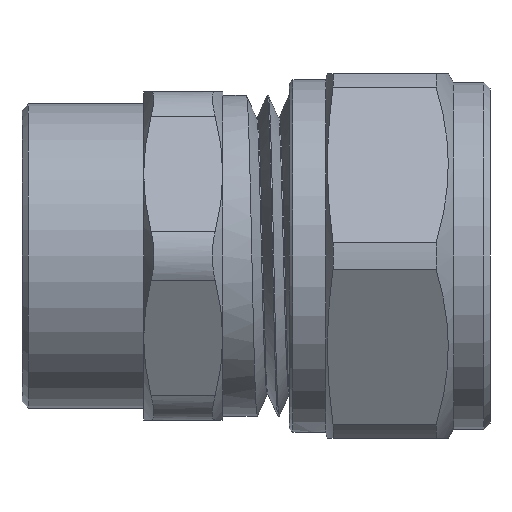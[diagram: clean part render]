
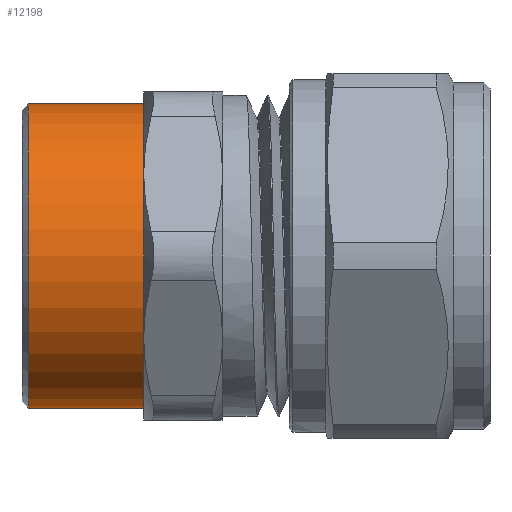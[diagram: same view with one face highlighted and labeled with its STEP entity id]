
A CAD part, front view. The second image highlights one B-rep face of the part: STEP entity #12198.
In plain terms, the highlighted cylindrical face has radius 12.5 mm (diameter 25 mm), a full revolution.
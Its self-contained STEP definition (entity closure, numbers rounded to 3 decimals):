
#1506=CYLINDRICAL_SURFACE('',#12834,12.5);
#2160=FACE_OUTER_BOUND('',#2878,.T.);
#2878=EDGE_LOOP('',(#11419,#11420,#11421,#11422,#11423,#11424));
#3632=LINE('',#29419,#4377);
#4377=VECTOR('',#14800,12.5);
#4681=CIRCLE('',#12832,12.5);
#4682=CIRCLE('',#12833,12.5);
#4683=CIRCLE('',#12835,12.5);
#4684=CIRCLE('',#12836,12.5);
#5935=VERTEX_POINT('',#29412);
#5936=VERTEX_POINT('',#29414);
#5937=VERTEX_POINT('',#29418);
#5938=VERTEX_POINT('',#29420);
#7783=EDGE_CURVE('',#5935,#5936,#4681,.T.);
#7784=EDGE_CURVE('',#5936,#5935,#4682,.T.);
#7785=EDGE_CURVE('',#5935,#5937,#3632,.T.);
#7786=EDGE_CURVE('',#5937,#5938,#4683,.T.);
#7787=EDGE_CURVE('',#5938,#5937,#4684,.T.);
#11419=ORIENTED_EDGE('',*,*,#7784,.F.);
#11420=ORIENTED_EDGE('',*,*,#7783,.F.);
#11421=ORIENTED_EDGE('',*,*,#7785,.T.);
#11422=ORIENTED_EDGE('',*,*,#7786,.T.);
#11423=ORIENTED_EDGE('',*,*,#7787,.T.);
#11424=ORIENTED_EDGE('',*,*,#7785,.F.);
#12198=ADVANCED_FACE('',(#2160),#1506,.T.);
#12832=AXIS2_PLACEMENT_3D('',#29415,#14794,#14795);
#12833=AXIS2_PLACEMENT_3D('',#29416,#14796,#14797);
#12834=AXIS2_PLACEMENT_3D('',#29417,#14798,#14799);
#12835=AXIS2_PLACEMENT_3D('',#29421,#14801,#14802);
#12836=AXIS2_PLACEMENT_3D('',#29422,#14803,#14804);
#14794=DIRECTION('center_axis',(-1.,0.,0.));
#14795=DIRECTION('ref_axis',(0.,0.,1.));
#14796=DIRECTION('center_axis',(-1.,0.,0.));
#14797=DIRECTION('ref_axis',(0.,0.,1.));
#14798=DIRECTION('center_axis',(-1.,0.,0.));
#14799=DIRECTION('ref_axis',(0.,-1.,0.));
#14800=DIRECTION('',(1.,0.,0.));
#14801=DIRECTION('center_axis',(-1.,0.,0.));
#14802=DIRECTION('ref_axis',(0.,0.,1.));
#14803=DIRECTION('center_axis',(-1.,0.,0.));
#14804=DIRECTION('ref_axis',(0.,0.,1.));
#29412=CARTESIAN_POINT('',(-18.25,12.5,0.));
#29414=CARTESIAN_POINT('',(-18.25,-12.5,0.));
#29415=CARTESIAN_POINT('Origin',(-18.25,0.,0.));
#29416=CARTESIAN_POINT('Origin',(-18.25,0.,0.));
#29417=CARTESIAN_POINT('Origin',(-13.5,0.,0.));
#29418=CARTESIAN_POINT('',(-8.75,12.5,0.));
#29419=CARTESIAN_POINT('',(-13.5,12.5,0.));
#29420=CARTESIAN_POINT('',(-8.75,-12.5,0.));
#29421=CARTESIAN_POINT('Origin',(-8.75,0.,0.));
#29422=CARTESIAN_POINT('Origin',(-8.75,0.,0.));
